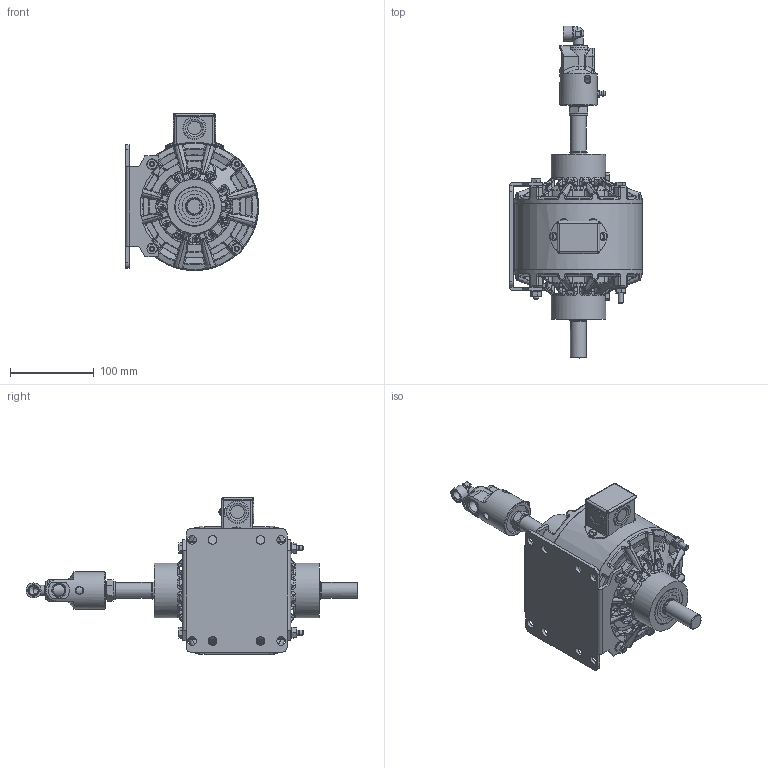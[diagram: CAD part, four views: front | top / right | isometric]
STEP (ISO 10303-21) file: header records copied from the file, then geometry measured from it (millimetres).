
FILE_DESCRIPTION(/* description */ ('STEP AP214'),/* implementation_level */ '2;1');
FILE_NAME(/* name */ '10MCW90B20_stp.step',/* time_stamp */ '2026-05-12T15:29:50-05:00',/* author */ (''),/* organization */ (''),/* preprocessor_version */ 'ST-DEVELOPER v20.1',/* originating_system */ 'Autodesk Translation Framework v15.8.0.0',/* authorisation */ '');
FILE_SCHEMA (('AUTOMOTIVE_DESIGN { 1 0 10303 214 3 1 1 }'));
Products named in the file (1): 10MCW90B20_asm_stp
Bounding box: 158.72 x 396.36 x 187.41 mm (x, y, z)
Volume: 1554556.2 mm3; surface area: 448349.7 mm2
Topology: 5 solids, 12 shells, 2742 faces, 6752 edges, 3944 vertices
Faces by surface type: bspline 860, cylinder 655, plane 626, torus 302, cone 202, sphere 97
Full cylindrical faces by diameter (mm): 3.306 x2, 3.454 x2, 3.795 x2, 4.039 x2, 4.166 x2, 6.325 x1, 6.35 x13, 6.747 x6, 8.6 x3, 9.474 x2, 9.5 x1, 9.525 x1, 10.319 x8, 10.719 x1, 12 x1, 13.208 x2, 13.487 x2, 13.494 x1, 13.889 x1, 14.684 x2, 16.5 x1, 18 x1, 19.05 x3, 19.101 x4, 19.15 x1, 19.939 x2, 20.008 x10, 22.2 x1, 22.225 x3, 23.79 x1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
Entity records: 138871 total; most frequent: CARTESIAN_POINT 80221, ORIENTED_EDGE 13296, DIRECTION 11146, EDGE_CURVE 6648, AXIS2_PLACEMENT_3D 4672, VERTEX_POINT 3956, EDGE_LOOP 2932, FACE_OUTER_BOUND 2742
